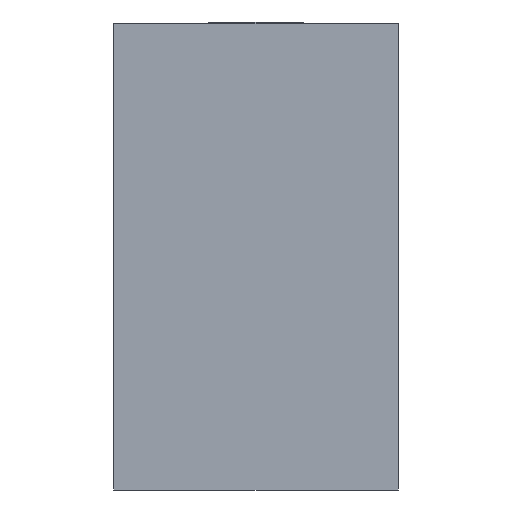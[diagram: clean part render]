
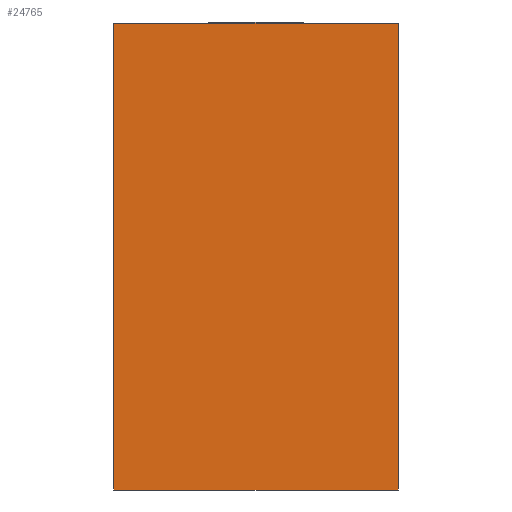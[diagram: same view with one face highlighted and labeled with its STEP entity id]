
A CAD part, front view. The second image highlights one B-rep face of the part: STEP entity #24765.
In plain terms, the highlighted planar face has unit normal (0, -1, 0).
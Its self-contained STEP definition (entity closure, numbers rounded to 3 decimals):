
#37=B_SPLINE_CURVE_WITH_KNOTS('',3,(#38520,#38521,#38522,#38523,#38524,
#38525),.UNSPECIFIED.,.F.,.F.,(4,2,4),(0.,75.917,
151.835),.UNSPECIFIED.);
#38=B_SPLINE_CURVE_WITH_KNOTS('',3,(#38526,#38527,#38528,#38529,#38530,
#38531),.UNSPECIFIED.,.F.,.F.,(4,2,4),(0.,124.65,
249.3),.UNSPECIFIED.);
#39=B_SPLINE_CURVE_WITH_KNOTS('',3,(#38532,#38533,#38534,#38535,#38536,
#38537),.UNSPECIFIED.,.F.,.F.,(4,2,4),(-249.3,-124.65,
0.),.UNSPECIFIED.);
#1572=FACE_OUTER_BOUND('',#3047,.T.);
#3047=EDGE_LOOP('',(#22586,#22587,#22588,#22589));
#6468=LINE('',#38515,#9886);
#9886=VECTOR('',#31609,10.);
#12192=VERTEX_POINT('',#38512);
#12193=VERTEX_POINT('',#38514);
#12194=VERTEX_POINT('',#38518);
#12195=VERTEX_POINT('',#38519);
#15659=EDGE_CURVE('',#12193,#12192,#6468,.T.);
#15661=EDGE_CURVE('',#12194,#12195,#37,.F.);
#15662=EDGE_CURVE('',#12195,#12193,#38,.T.);
#15663=EDGE_CURVE('',#12192,#12194,#39,.T.);
#22586=ORIENTED_EDGE('',*,*,#15661,.T.);
#22587=ORIENTED_EDGE('',*,*,#15662,.T.);
#22588=ORIENTED_EDGE('',*,*,#15659,.T.);
#22589=ORIENTED_EDGE('',*,*,#15663,.T.);
#23674=PLANE('',#25925);
#24765=ADVANCED_FACE('',(#1572),#23674,.T.);
#25925=AXIS2_PLACEMENT_3D('',#38517,#31611,#31612);
#31609=DIRECTION('',(1.,0.,0.));
#31611=DIRECTION('center_axis',(0.,-1.,0.));
#31612=DIRECTION('ref_axis',(0.,0.,-1.));
#38512=CARTESIAN_POINT('',(759.173,-408.873,-2324.6));
#38514=CARTESIAN_POINT('',(-759.173,-408.873,-2324.6));
#38515=CARTESIAN_POINT('',(259.173,-408.873,-2324.6));
#38517=CARTESIAN_POINT('Origin',(0.,-408.873,
-1074.6));
#38518=CARTESIAN_POINT('',(759.173,-408.873,168.404));
#38519=CARTESIAN_POINT('',(-759.173,-408.873,168.404));
#38520=CARTESIAN_POINT('Ctrl Pts',(-759.173,-408.873,168.404));
#38521=CARTESIAN_POINT('Ctrl Pts',(-506.115,-408.873,
168.404));
#38522=CARTESIAN_POINT('Ctrl Pts',(-253.058,-408.873,
168.403));
#38523=CARTESIAN_POINT('Ctrl Pts',(253.058,-408.873,168.403));
#38524=CARTESIAN_POINT('Ctrl Pts',(506.115,-408.873,168.404));
#38525=CARTESIAN_POINT('Ctrl Pts',(759.173,-408.873,168.404));
#38526=CARTESIAN_POINT('Ctrl Pts',(-759.173,-408.873,168.404));
#38527=CARTESIAN_POINT('Ctrl Pts',(-759.173,-408.873,-247.097));
#38528=CARTESIAN_POINT('Ctrl Pts',(-759.173,-408.873,
-662.598));
#38529=CARTESIAN_POINT('Ctrl Pts',(-759.173,-408.873,
-1493.599));
#38530=CARTESIAN_POINT('Ctrl Pts',(-759.173,-408.873,
-1909.099));
#38531=CARTESIAN_POINT('Ctrl Pts',(-759.173,-408.873,-2324.6));
#38532=CARTESIAN_POINT('Ctrl Pts',(759.173,-408.873,-2324.6));
#38533=CARTESIAN_POINT('Ctrl Pts',(759.173,-408.873,-1909.099));
#38534=CARTESIAN_POINT('Ctrl Pts',(759.173,-408.873,-1493.599));
#38535=CARTESIAN_POINT('Ctrl Pts',(759.173,-408.873,-662.598));
#38536=CARTESIAN_POINT('Ctrl Pts',(759.173,-408.873,-247.097));
#38537=CARTESIAN_POINT('Ctrl Pts',(759.173,-408.873,168.404));
